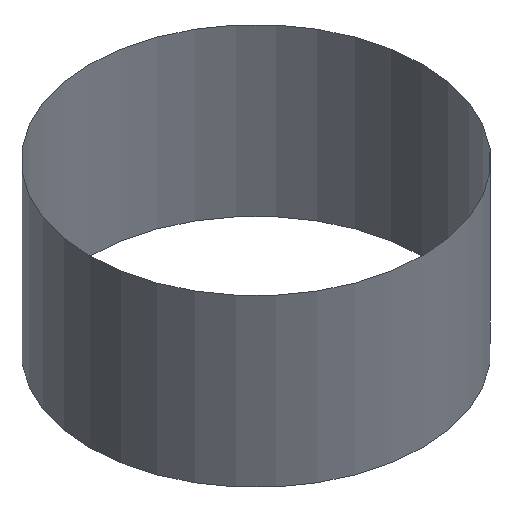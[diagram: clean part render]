
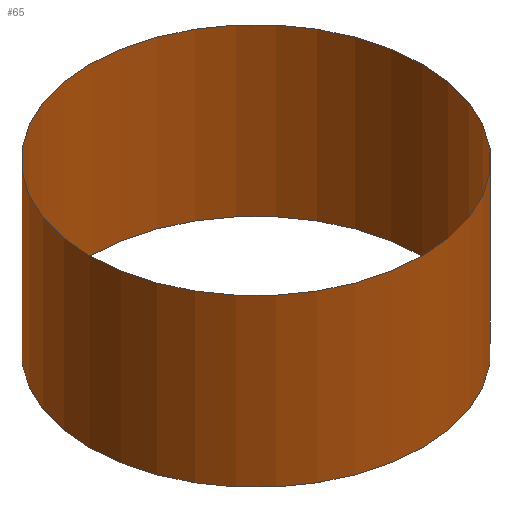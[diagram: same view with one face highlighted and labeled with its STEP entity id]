
A CAD part, isometric view. The second image highlights one B-rep face of the part: STEP entity #65.
In plain terms, the highlighted cylindrical face has radius 10 mm (diameter 20 mm), a full revolution.
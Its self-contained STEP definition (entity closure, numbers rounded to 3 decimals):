
#1=CARTESIAN_POINT('',(0.,0.,0.));
#2=CARTESIAN_POINT('',(0.,0.,10.));
#3=CARTESIAN_POINT('',(10.001,0.,0.));
#4=CARTESIAN_POINT('',(10.001,0.,10.));
#10=DIRECTION('',(0.,0.,1.));
#11=DIRECTION('',(1.,0.,0.));
#12=AXIS2_PLACEMENT_3D('',#1,#10,#11);
#13=AXIS2_PLACEMENT_3D('',#2,#10,#11);
#20=VERTEX_POINT('',#3);
#21=VERTEX_POINT('',#4);
#30=CIRCLE('',#12,10.);
#31=CIRCLE('',#13,10.);
#40=EDGE_CURVE('',#20,#20,#30,.T.);
#41=EDGE_CURVE('',#21,#21,#31,.T.);
#50=ORIENTED_EDGE('',*,*,#40,.F.);
#51=ORIENTED_EDGE('',*,*,#41,.T.);
#60=EDGE_LOOP('',(#50));
#61=EDGE_LOOP('',(#51));
#62=FACE_OUTER_BOUND('',#60,.T.);
#63=FACE_BOUND('',#61,.T.);
#64=CYLINDRICAL_SURFACE('',#12,10.);
#65=ADVANCED_FACE('',(#62,#63),#64,.T.);
